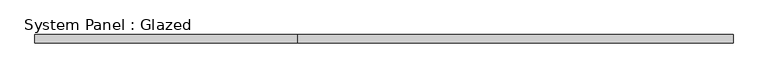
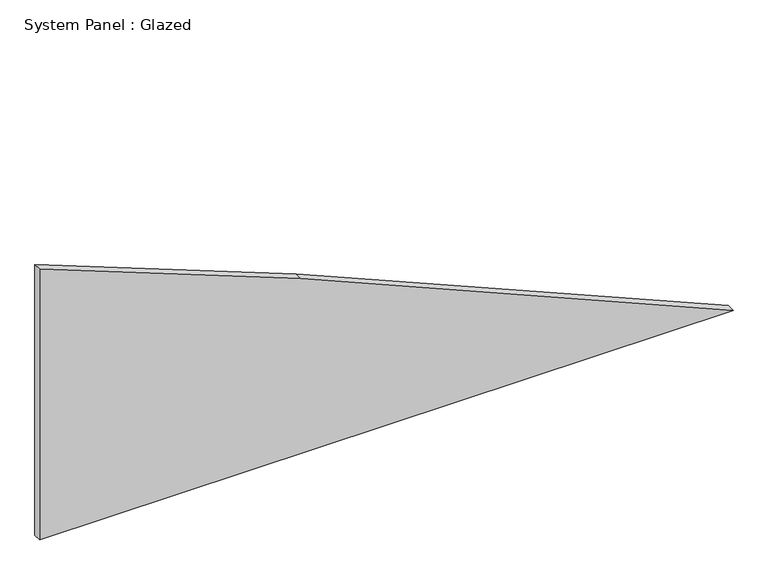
"""IFC4 building model written with IfcOpenShell, lengths in millimetres: plate geometry, System Panel : Glazed."""

from ifc_helpers import new_model, si_unit, frame, origin, place, context, project, spatial, polyline, outline, extrude, source, transform, mapped, element, save


def system_panel_glazed_c1ebde9c(model_context):
    return source(origin(), model_context, "Body", "SweptSolid", [
        extrude(outline(polyline([(0.0, -1074.7971895), (0.0, 1074.7971895), (573.3990301, -265.1718263), (888.3246927, -1074.7971895), (0.0, -1074.7971895)])), frame((0.0, 19.05, 0.0), z_axis=(0.0, 1.0, 0.0), x_axis=(0.0, 0.0, 1.0)), (0.0, 0.0, 1.0), 25.4),
    ])


if __name__ == "__main__":
    model = new_model("IFC4")
    model_context = context("Model", 3, world=origin())
    ifc_project = project(units=[si_unit("LENGTHUNIT", "METRE", prefix="MILLI")], contexts=[model_context])
    site = spatial("IfcSite", under=ifc_project)
    building = spatial("IfcBuilding", under=site)
    placement = place(None, origin())
    system_panel_glazed_shape = system_panel_glazed_c1ebde9c(model_context)
    element("IfcPlate", 1, ObjectType="System Panel : Glazed", at=placement, inside=building, context=model_context, shape_type="MappedRepresentation", body=[
        mapped(system_panel_glazed_shape, transform((0.0, 0.0, 0.0), x_axis=(1.0, 0.0, 0.0), y_axis=(0.0, 1.0, 0.0), z_axis=(0.0, 0.0, 1.0))),
    ])
    save(model, "model.ifc")
